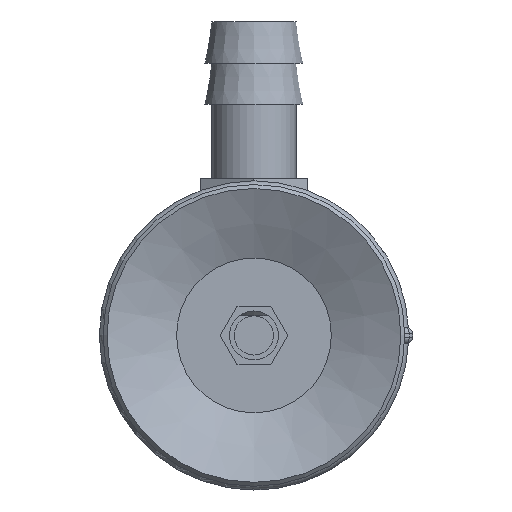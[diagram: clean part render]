
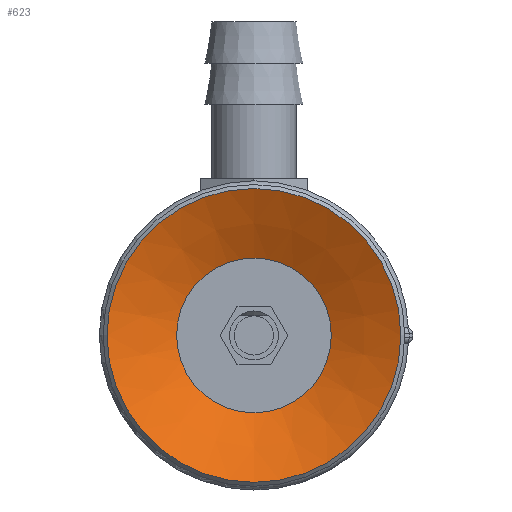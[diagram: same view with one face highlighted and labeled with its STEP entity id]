
A CAD part, front view. The second image highlights one B-rep face of the part: STEP entity #623.
In plain terms, the highlighted conical face has half-angle 64 degrees and reference radius 3.95 mm.
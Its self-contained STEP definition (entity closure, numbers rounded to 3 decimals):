
#623=ADVANCED_FACE('',(#927,#928),#929,.F.);
#927=FACE_BOUND('',#1381,.T.);
#928=FACE_OUTER_BOUND('',#1382,.T.);
#929=CONICAL_SURFACE('',#1383,3.95,1.117);
#1381=EDGE_LOOP('',(#2210));
#1382=EDGE_LOOP('',(#2211));
#1383=AXIS2_PLACEMENT_3D('',#2212,#2213,#2214);
#2210=ORIENTED_EDGE('',*,*,#2635,.F.);
#2211=ORIENTED_EDGE('',*,*,#2636,.T.);
#2212=CARTESIAN_POINT('',(0.0,-29.404,-47.168));
#2213=DIRECTION('',(-0.0,0.,1.0));
#2214=DIRECTION('',(0.0,-1.0,0.));
#2635=EDGE_CURVE('',#3034,#3034,#3035,.T.);
#2636=EDGE_CURVE('',#3036,#3036,#3037,.T.);
#3034=VERTEX_POINT('',#3869);
#3035=CIRCLE('',#3870,3.95);
#3036=VERTEX_POINT('',#3871);
#3037=CIRCLE('',#3872,7.5);
#3869=CARTESIAN_POINT('',(0.0,-33.354,-47.168));
#3870=AXIS2_PLACEMENT_3D('',#4297,#4298,#4299);
#3871=CARTESIAN_POINT('',(0.0,-36.904,-45.437));
#3872=AXIS2_PLACEMENT_3D('',#4300,#4301,#4302);
#4297=CARTESIAN_POINT('',(0.0,-29.404,-47.168));
#4298=DIRECTION('',(0.0,0.,1.0));
#4299=DIRECTION('',(0.0,-1.0,0.));
#4300=CARTESIAN_POINT('',(0.0,-29.404,-45.437));
#4301=DIRECTION('',(0.0,0.,1.0));
#4302=DIRECTION('',(0.0,-1.0,0.));
